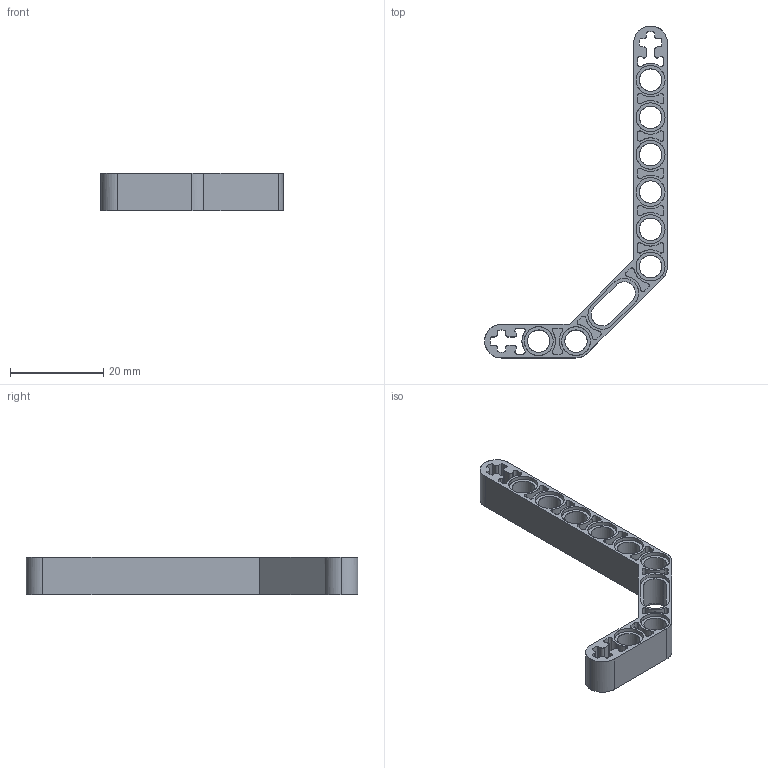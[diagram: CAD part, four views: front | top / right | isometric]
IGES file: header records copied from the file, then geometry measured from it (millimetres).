
Start section: C
Global section: file name: Black_4111998_JC.iges; native system: By Siemens PLM Incorporated; preprocessor: XPlus GENERIC/IGES 26.1.183; author: Author; organization: Title; date: 20250721.234442; units: millimetre
Bounding box: 39.2 x 71.2 x 8 mm (x, y, z)
Surface area: 4907.2 mm2 (no closed solid volume)
Topology: 0 solids, 0 shells, 293 faces, 1638 edges, 1638 vertices
Faces by surface type: bspline 293
